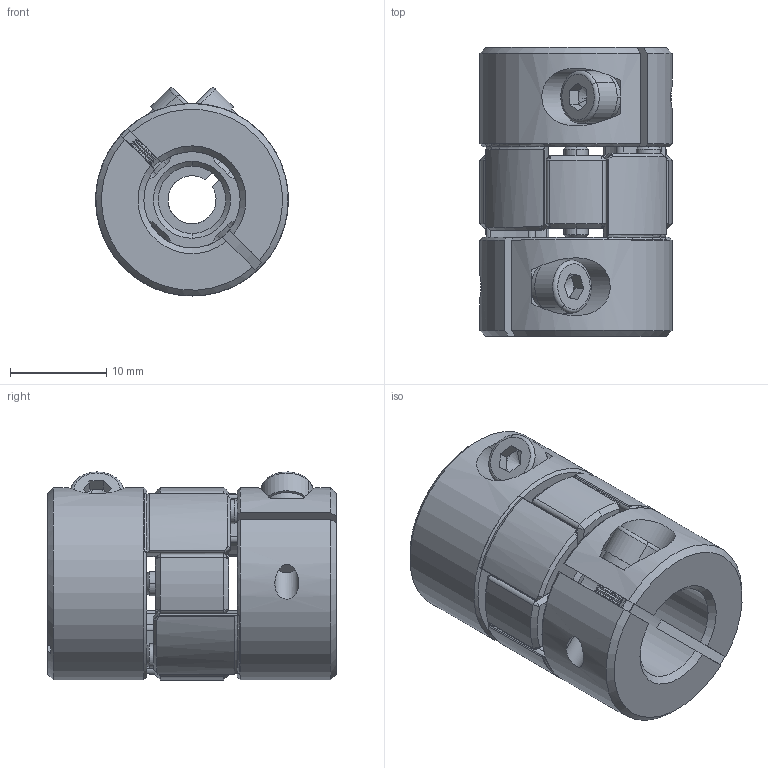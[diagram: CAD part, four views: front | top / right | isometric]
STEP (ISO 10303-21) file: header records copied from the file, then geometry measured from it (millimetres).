
FILE_DESCRIPTION (( 'STEP AP203' ), '1' );
FILE_NAME ('LF-B-D20L30-5-10.STEP', '2021-10-27T02:44:24', ( '' ), ( '' ), 'SwSTEP 2.0', 'SolidWorks 2018', '' );
FILE_SCHEMA (( 'CONFIG_CONTROL_DESIGN' ));
Length unit declared in the file: millimetre
Products named in the file (1): LF-B-D20L30-5-10
Bounding box: 20 x 30 x 21.62 mm (x, y, z)
Volume: 7333.1 mm3; surface area: 4852.1 mm2
Topology: 1 solids, 1 shells, 518 faces, 1253 edges, 691 vertices
Faces by surface type: cone 252, cylinder 192, plane 62, torus 12
Entity records: 15024 total; most frequent: CARTESIAN_POINT 2904, DIRECTION 2742, ORIENTED_EDGE 2426, EDGE_CURVE 1213, AXIS2_PLACEMENT_3D 1107, VERTEX_POINT 691, CIRCLE 588, EDGE_LOOP 546
